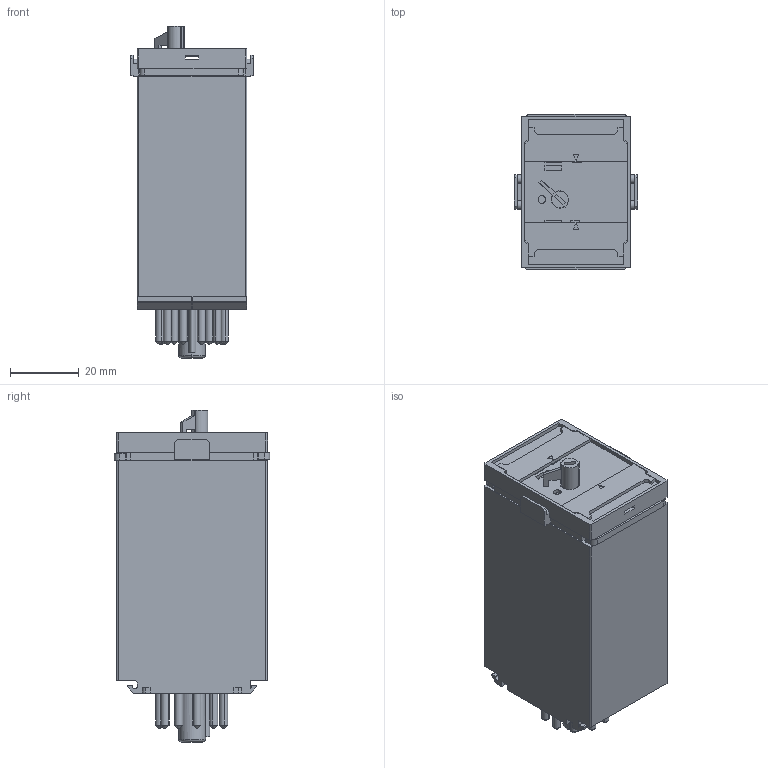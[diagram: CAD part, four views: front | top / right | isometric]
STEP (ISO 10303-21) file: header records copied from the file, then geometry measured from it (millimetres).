
FILE_DESCRIPTION (( 'STEP AP214' ), '1' );
FILE_NAME ('CS3.STEP', '2024-04-11T10:28:26', ( '' ), ( '' ), 'SwSTEP 2.0', 'SolidWorks 2022', '' );
FILE_SCHEMA (( 'AUTOMOTIVE_DESIGN' ));
Length unit declared in the file: millimetre
Products named in the file (1): CS3
Bounding box: 36 x 45.3 x 96.87 mm (x, y, z)
Volume: 99624.4 mm3; surface area: 21761.2 mm2
Topology: 1 solids, 4 shells, 550 faces, 1525 edges, 996 vertices
Faces by surface type: plane 406, cylinder 107, cone 26, torus 6, bspline 5
Entity records: 20965 total; most frequent: CARTESIAN_POINT 3549, ORIENTED_EDGE 3042, DIRECTION 2815, EDGE_CURVE 1521, LINE 1239, VECTOR 1239, VERTEX_POINT 996, AXIS2_PLACEMENT_3D 788
